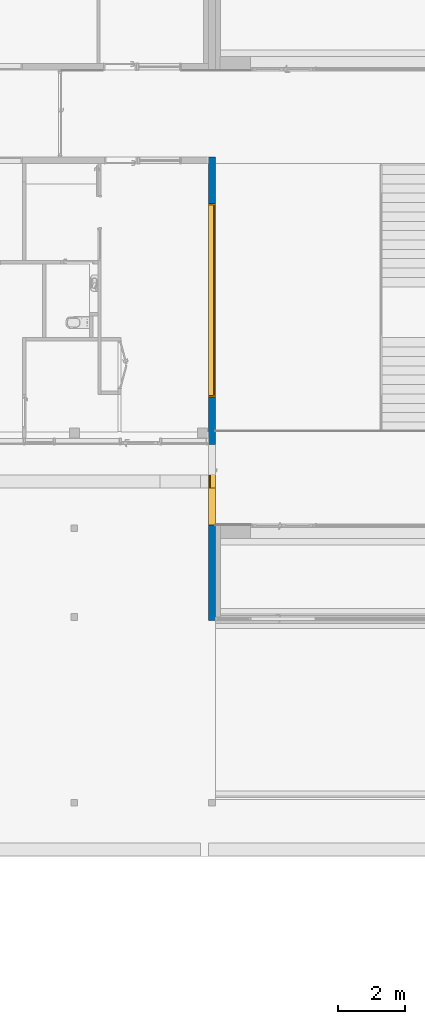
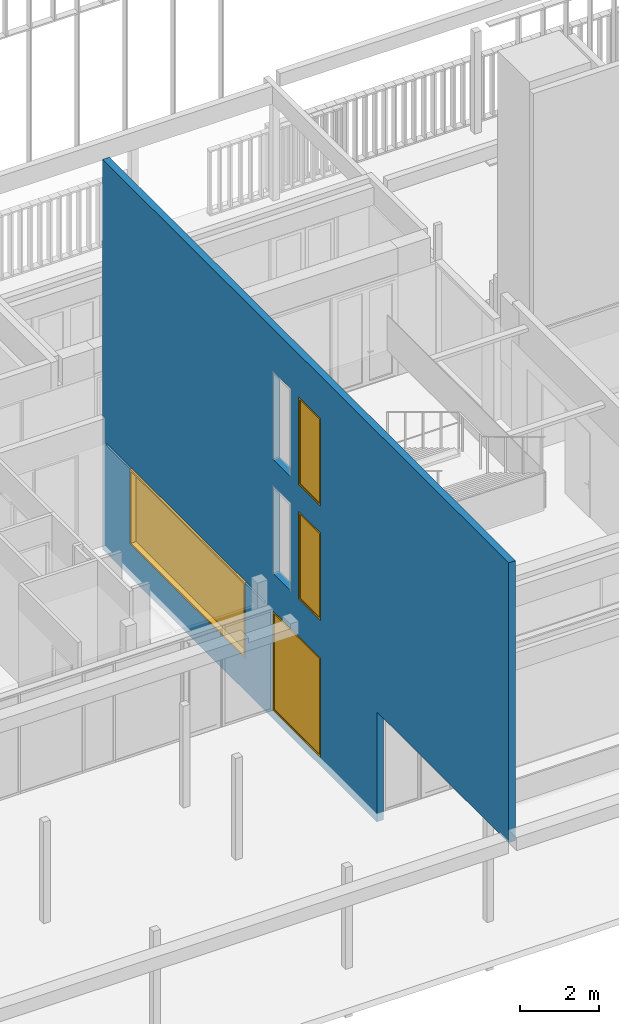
"""IFC2X3 building model written with IfcOpenShell, lengths in centimetres."""

from ifc_helpers import new_model, entity, si_unit, converted_unit, derived_unit, direction, frame, frame_2d, origin, place, context, subcontext, project, spatial, rectangle, extrude, faceted_brep, source, transform, mapped, material, material_list, layer, layer_set, type_object, type_shapes, element, fill, save


model = new_model("IFC2X3")

# Units and contexts
model_context = context("Model", 3, precision=0.001, world=origin(), true_north=direction((6.12303176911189e-17, 1.0)))
body_context = subcontext(model_context, "Body", "Model", "MODEL_VIEW")
ifc_project = project(units=[si_unit("LENGTHUNIT", "METRE", prefix="CENTI"), si_unit("AREAUNIT", "SQUARE_METRE"), si_unit("VOLUMEUNIT", "CUBIC_METRE"), converted_unit("PLANEANGLEUNIT", "DEGREE", entity("IfcRatioMeasure", 0.0174532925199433), si_unit("PLANEANGLEUNIT", "RADIAN"), dimensions=[0, 0, 0, 0, 0, 0, 0]), si_unit("MASSUNIT", "GRAM", prefix="KILO"), derived_unit("MASSDENSITYUNIT", [(si_unit("MASSUNIT", "GRAM", prefix="KILO"), 1), (si_unit("LENGTHUNIT", "METRE"), -3)]), si_unit("TIMEUNIT", "SECOND"), si_unit("FREQUENCYUNIT", "HERTZ"), si_unit("THERMODYNAMICTEMPERATUREUNIT", "DEGREE_CELSIUS"), derived_unit("THERMALTRANSMITTANCEUNIT", [(si_unit("MASSUNIT", "GRAM", prefix="KILO"), 1), (si_unit("THERMODYNAMICTEMPERATUREUNIT", "KELVIN"), -1), (si_unit("TIMEUNIT", "SECOND"), -3)]), derived_unit("VOLUMETRICFLOWRATEUNIT", [(si_unit("LENGTHUNIT", "METRE"), 3), (si_unit("TIMEUNIT", "SECOND"), -1)]), si_unit("ELECTRICCURRENTUNIT", "AMPERE"), si_unit("ELECTRICVOLTAGEUNIT", "VOLT"), si_unit("POWERUNIT", "WATT"), si_unit("FORCEUNIT", "NEWTON", prefix="KILO"), si_unit("ILLUMINANCEUNIT", "LUX"), si_unit("LUMINOUSFLUXUNIT", "LUMEN"), si_unit("LUMINOUSINTENSITYUNIT", "CANDELA"), derived_unit("USERDEFINED", [(si_unit("MASSUNIT", "GRAM", prefix="KILO"), -1), (si_unit("LENGTHUNIT", "METRE"), -2), (si_unit("TIMEUNIT", "SECOND"), 3), (si_unit("LUMINOUSFLUXUNIT", "LUMEN"), 1)]), derived_unit("LINEARVELOCITYUNIT", [(si_unit("LENGTHUNIT", "METRE"), 1), (si_unit("TIMEUNIT", "SECOND"), -1)]), si_unit("PRESSUREUNIT", "PASCAL"), derived_unit("USERDEFINED", [(si_unit("LENGTHUNIT", "METRE"), -2), (si_unit("MASSUNIT", "GRAM", prefix="KILO"), 1), (si_unit("TIMEUNIT", "SECOND"), -2)])], contexts=[model_context])

# Site, building, storey
site_placement = place(None, frame((-2781.94577612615, 7442.24238424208, 0.0)))
site = spatial("IfcSite", under=ifc_project, at=site_placement, Name="Default", CompositionType="ELEMENT")
building_placement = place(site_placement, origin())
building = spatial("IfcBuilding", under=site, at=building_placement, CompositionType="ELEMENT")
storey_1_placement = place(building_placement, origin())
storey_1 = spatial("IfcBuildingStorey", under=building, at=storey_1_placement, Name="N00 - COO", CompositionType="ELEMENT", Elevation=0.0)

# Wall, openings, window
ifc_material_1 = material(Name="01 - Maçonnerie")
ifc_layer = layer(ifc_material_1, 20.0)
ifc_layer_set = layer_set([ifc_layer], Name="Mur de base:04 - Structure - béton - 20cm")
wall_type = type_object("IfcWallType", Name="Mur de base:04 - Structure - béton - 20cm", PredefinedType="STANDARD", material=ifc_layer_set)
wall_placement = place(building_placement, frame((-4777.99987760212, -3140.31349958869, -26.0), z_axis=(0.0, 0.0, 1.0), x_axis=(0.0, 1.0, 0.0)))
wall = element("IfcWall", 1, at=wall_placement, inside=storey_1, type_object=wall_type, Name="Mur de base:04 - Structure - béton - 20cm", ObjectType="Mur de base:04 - Structure - béton - 20cm", context=body_context, shape_type="Brep", body=[
    faceted_brep([(1190.23446594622, -10.0, 332.0), (1190.23446594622, -10.0, 26.0), (950.156932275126, -10.0, 26.0), (950.156932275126, -10.0, 332.0), (1060.19064453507, -10.0, 1070.0), (1060.19064453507, -10.0, 800.0), (950.156932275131, -10.0, 800.0), (950.15693227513, -10.0, 1070.0), (950.15693227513, -10.0, 448.0), (950.15693227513, -10.0, 718.0), (1060.19064453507, -10.0, 718.0), (1060.19064453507, -10.0, 448.0), (1332.23446594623, -10.0, 101.0), (1332.23446594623, -10.0, 332.0), (1911.46036523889, -10.0, 332.0), (1911.46036523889, -10.0, 101.0), (1190.33446594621, -10.0, 1070.0), (1190.33446594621, -10.0, 800.0), (1100.33446594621, -10.0, 800.0), (1100.33446594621, -10.0, 1070.0), (1190.23446594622, -10.0, 718.0), (1190.23446594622, -10.0, 448.0), (1100.23446594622, -10.0, 448.0), (1100.23446594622, -10.0, 718.0), (665.156932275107, -10.0, 0.0), (684.156932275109, -10.0, 0.0), (2050.0, -10.0, 0.0), (2050.0, -10.0, 417.0), (2050.0, -10.0, 448.0), (2050.0, -10.0, 769.0), (2050.0, -10.0, 800.0), (2050.0, -10.0, 1197.0), (2050.0, -10.0, 1202.0), (1256.17297987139, -10.0, 1202.0), (146.0, -10.0, 1202.0), (130.0, -10.0, 1202.0), (110.0, -10.0, 1202.0), (90.0, -10.0, 1202.0), (0.0, -10.0, 1202.0), (0.0, -10.0, 339.0), (665.156932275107, -10.0, 339.0), (1190.23446594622, 10.0, 26.0), (1190.23446594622, 10.0, 332.0), (950.156932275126, 10.0, 332.0), (950.156932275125, 10.0, 26.0), (950.15693227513, 10.0, 718.0), (950.15693227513, 10.0, 448.0), (1060.19064453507, 10.0, 448.0), (1060.19064453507, 10.0, 718.0), (1060.19064453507, 10.0, 800.0), (1060.19064453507, 10.0, 1070.0), (950.156932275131, 10.0, 1070.0), (950.15693227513, 10.0, 800.0), (1332.23446594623, 10.0, 332.0), (1332.23446594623, 10.0, 101.0), (1911.46036523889, 10.0, 101.0), (1911.46036523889, 10.0, 332.0), (2030.31349968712, 10.0, 332.0), (2030.31349968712, 10.0, 339.0), (1235.23446594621, 10.0, 339.0), (1228.9244659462, 10.0, 339.0), (1228.9244659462, 10.0, 332.0), (1190.33446594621, 10.0, 800.0), (1190.33446594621, 10.0, 1070.0), (1100.33446594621, 10.0, 1070.0), (1100.33446594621, 10.0, 800.0), (1190.23446594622, 10.0, 448.0), (1190.23446594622, 10.0, 531.5), (1190.23446594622, 10.0, 718.0), (1100.23446594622, 10.0, 718.0), (1100.23446594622, 10.0, 448.0), (2050.0, 10.0, 0.0), (684.156932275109, 10.0, 0.0), (665.156932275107, 10.0, 0.0), (665.156932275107, 10.0, 339.0), (0.0, 10.0, 339.0), (0.0, 10.0, 1202.0), (1190.23446594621, 10.0, 1202.0), (1210.23446594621, 10.0, 1202.0), (1256.17297987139, 10.0, 1202.0), (2050.0, 10.0, 1202.0), (2050.0, 10.0, 1197.0), (2050.0, 10.0, 1172.0), (2050.0, 10.0, 1126.0), (1332.23446594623, -8.49999999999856, 332.0), (1911.46036523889, -8.49999999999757, 332.0), (2030.31349968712, -8.49999999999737, 339.0), (1228.9244659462, -8.49999999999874, 339.0), (2030.31349968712, -8.49999999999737, 332.0), (1228.9244659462, -8.49999999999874, 332.0)], [[[0, 1, 2, 3], [4, 5, 6, 7], [8, 9, 10, 11], [12, 13, 14, 15], [16, 17, 18, 19], [20, 21, 22, 23], [24, 25, 26, 27, 28, 29, 30, 31, 32, 33, 34, 35, 36, 37, 38, 39, 40]], [[41, 42, 43, 44], [45, 46, 47, 48], [49, 50, 51, 52], [53, 54, 55, 56, 57, 58, 59, 60, 61], [62, 63, 64, 65], [66, 67, 68, 69, 70], [71, 72, 73, 74, 75, 76, 77, 78, 79, 80, 81, 82, 83]], [[41, 1, 0, 42]], [[42, 0, 3, 43]], [[2, 44, 43, 3]], [[1, 41, 44, 2]], [[8, 46, 45, 9]], [[9, 45, 48, 10]], [[47, 11, 10, 48]], [[11, 47, 46, 8]], [[49, 5, 4, 50]], [[50, 4, 7, 51]], [[6, 52, 51, 7]], [[5, 49, 52, 6]], [[12, 54, 53, 84, 13]], [[14, 13, 84, 85]], [[55, 15, 14, 85, 56]], [[54, 12, 15, 55]], [[63, 62, 17, 16]], [[64, 63, 16, 19]], [[65, 64, 19, 18]], [[62, 65, 18, 17]], [[86, 87, 60, 59, 58]], [[85, 88, 57, 56]], [[87, 89, 61, 60]], [[87, 86, 88, 85, 84, 89]], [[88, 86, 58, 57]], [[68, 67, 66, 21, 20]], [[69, 68, 20, 23]], [[70, 69, 23, 22]], [[66, 70, 22, 21]], [[26, 25, 24, 73, 72, 71]], [[82, 81, 80, 32, 31, 30, 29, 28, 27, 26, 71, 83]], [[38, 37, 36, 35, 34, 33, 32, 80, 79, 78, 77, 76]], [[39, 38, 76, 75]], [[40, 39, 75, 74]], [[24, 40, 74, 73]], [[89, 84, 53, 61]]], outer=[[False, False, False, False, False, False, True], [False, False, False, False, False, False, True], [True], [True], [True], [True], [True], [True], [True], [True], [True], [True], [True], [True], [True], [True], [True], [True], [True], [True], [True], [True], [True], [True], [True], [True], [True], [True], [True], [True], [True], [True], [True], [True], [True], [True], [True], [True]]),
])
opening_1_placement = place(wall_placement, frame((1190.23446594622, 10.0, 26.0)))
opening_1 = element("IfcOpeningElement", 2, at=opening_1_placement, cuts=wall, Name="châssis intérieur vitré:RDC - Pignon -  châssis intérieur vitré (3.11m):1", ObjectType="Opening", context=body_context, shape_type="SweptSolid", body=[
    extrude(rectangle(XDim=306.0, YDim=240.077533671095, at=frame_2d((153.0, 120.038766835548), x_axis=(1.0, 0.0))), frame((0.0, 0.0, 0.0), z_axis=(0.0, -1.0, 0.0), x_axis=(0.0, 0.0, 1.0)), (0.0, 0.0, 1.0), 20.0),
])
opening_2_placement = place(wall_placement, frame((1060.19064453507, 10.0, 448.0)))
opening_2 = element("IfcOpeningElement", 3, at=opening_2_placement, cuts=wall, Name="châssis intérieur vitré:R+1 - Pignon -  châssis intérieur vitré (2,70m):1", ObjectType="Opening", context=body_context, shape_type="SweptSolid", body=[
    extrude(rectangle(XDim=270.0, YDim=110.033712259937, at=frame_2d((135.0, 55.0168561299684), x_axis=(1.0, 0.0))), frame((0.0, 0.0, 0.0), z_axis=(0.0, -1.0, 0.0), x_axis=(0.0, 0.0, 1.0)), (0.0, 0.0, 1.0), 20.0),
])
opening_3_placement = place(wall_placement, frame((1060.19064453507, 10.0, 800.0)))
opening_3 = element("IfcOpeningElement", 4, at=opening_3_placement, cuts=wall, Name="châssis intérieur vitré:R+1 - Pignon -  châssis intérieur vitré (2,70m):1", ObjectType="Opening", context=body_context, shape_type="SweptSolid", body=[
    extrude(rectangle(XDim=270.0, YDim=110.033712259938, at=frame_2d((135.0, 55.0168561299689), x_axis=(1.0, 0.0))), frame((0.0, 0.0, 0.0), z_axis=(0.0, -1.0, 0.0), x_axis=(0.0, 0.0, 1.0)), (0.0, 0.0, 1.0), 20.0),
])
opening_4_placement = place(wall_placement, frame((1332.23446594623, -10.0, 101.0)))
opening_4 = element("IfcOpeningElement", 5, at=opening_4_placement, cuts=wall, Name="châssis intérieur vitré:châssis intérieur vitré bureau asen:1", ObjectType="Opening", context=body_context, shape_type="SweptSolid", body=[
    extrude(rectangle(XDim=231.0, YDim=579.22589929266, at=frame_2d((115.5, 289.61294964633), x_axis=(1.0, 0.0))), frame((0.0, 0.0, 0.0), z_axis=(0.0, 1.0, 0.0), x_axis=(0.0, 0.0, 1.0)), (0.0, 0.0, 1.0), 20.0),
])
opening_5_placement = place(wall_placement, frame((1190.33446594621, 10.0, 800.0)))
element("IfcOpeningElement", 6, at=opening_5_placement, cuts=wall, Name="Int. Simple:PP simple accès technique coursive ext (0.93m x 2.50m) 2:1", ObjectType="Opening", context=body_context, shape_type="SweptSolid", body=[
    extrude(rectangle(XDim=270.000000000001, YDim=89.9999999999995, at=frame_2d((135.000000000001, 44.9999999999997), x_axis=(1.0, 0.0))), frame((0.0, 0.0, 0.0), z_axis=(0.0, -1.0, 0.0), x_axis=(0.0, 0.0, 1.0)), (0.0, 0.0, 1.0), 20.0),
])
opening_6_placement = place(wall_placement, frame((1190.23446594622, 10.0, 448.0)))
element("IfcOpeningElement", 7, at=opening_6_placement, cuts=wall, Name="Int. Simple:PP simple accès technique coursive ext (0.93m x 2.50m) 2:1", ObjectType="Opening", context=body_context, shape_type="SweptSolid", body=[
    extrude(rectangle(XDim=270.000000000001, YDim=89.9999999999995, at=frame_2d((135.000000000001, 44.9999999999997), x_axis=(1.0, 0.0))), frame((0.0, 0.0, 0.0), z_axis=(0.0, -1.0, 0.0), x_axis=(0.0, 0.0, 1.0)), (0.0, 0.0, 1.0), 20.0),
])
ifc_material_2 = material(Name="Verre")
ifc_material_3 = material(Name="huisserie bois")
ifc_material_list_1 = material_list([ifc_material_2, ifc_material_3])
ifc_material_list_2 = material_list([ifc_material_2, ifc_material_3])
window_style_1 = type_object("IfcWindowStyle", Name="RDC - Pignon -  châssis intérieur vitré (3.11m)", ConstructionType="NOTDEFINED", OperationType="NOTDEFINED", ParameterTakesPrecedence=False, Sizeable=False, material=ifc_material_list_2)
shared_shape_1 = source(origin(), body_context, "Body", "Brep", [
    faceted_brep([(237.077533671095, 5.0, 303.0), (237.077533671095, 5.0, 3.0), (3.0, 5.0, 3.0), (3.0, 5.0, 303.0), (237.077533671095, 2.0, 303.0), (237.077533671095, 2.0, 3.0), (3.0, 2.0, 3.0), (3.0, 2.0, 303.0)], [[[0, 1, 2, 3]], [[1, 0, 4, 5]], [[2, 1, 5, 6]], [[3, 2, 6, 7]], [[4, 7, 6, 5]], [[0, 3, 7, 4]]]),
    faceted_brep([(237.077533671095, 2.0, 303.0), (237.077533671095, 0.0, 303.0), (237.077533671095, 0.0, 3.0), (237.077533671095, 2.0, 3.0), (235.077533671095, 0.0, 5.0), (5.0, 0.0, 5.0), (5.0, 0.0, 301.0), (235.077533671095, 0.0, 301.0), (3.0, 0.0, 303.0), (3.0, 0.0, 3.0), (3.0, 2.0, 3.0), (3.0, 2.0, 303.0), (235.077533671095, 2.0, 301.0), (5.0, 2.0, 301.0), (5.0, 2.0, 5.0), (235.077533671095, 2.0, 5.0)], [[[0, 1, 2, 3]], [[4, 5, 6, 7], [1, 8, 9, 2]], [[3, 2, 9, 10]], [[3, 10, 11, 0], [12, 13, 14, 15]], [[7, 12, 15, 4]], [[4, 15, 14, 5]], [[10, 9, 8, 11]], [[5, 14, 13, 6]], [[11, 8, 1, 0]], [[6, 13, 12, 7]]], outer=[[True], [False, True], [True], [True, False], [True], [True], [True], [True], [True], [True]]),
    faceted_brep([(235.077533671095, 5.0, 301.0), (235.077533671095, 20.0, 301.0), (235.077533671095, 20.0, 5.0), (235.077533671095, 5.0, 5.0), (240.077533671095, 20.0, 0.0), (0.0, 20.0, 0.0), (0.0, 20.0, 306.0), (240.077533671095, 20.0, 306.0), (5.0, 20.0, 301.0), (5.0, 20.0, 5.0), (5.0, 5.0, 5.0), (5.0, 5.0, 301.0), (237.077533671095, 5.0, 303.0), (3.0, 5.0, 303.0), (3.0, 5.0, 3.0), (237.077533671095, 5.0, 3.0), (237.077533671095, 0.0, 303.0), (237.077533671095, 0.0, 3.0), (3.0, 0.0, 3.0), (3.0, 0.0, 303.0), (240.077533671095, 0.0, 306.0), (0.0, 0.0, 306.0), (0.0, 0.0, 0.0), (240.077533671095, 0.0, 0.0)], [[[0, 1, 2, 3]], [[4, 5, 6, 7], [1, 8, 9, 2]], [[3, 2, 9, 10]], [[3, 10, 11, 0], [12, 13, 14, 15]], [[16, 12, 15, 17]], [[17, 15, 14, 18]], [[17, 18, 19, 16], [20, 21, 22, 23]], [[7, 20, 23, 4]], [[4, 23, 22, 5]], [[10, 9, 8, 11]], [[18, 14, 13, 19]], [[5, 22, 21, 6]], [[11, 8, 1, 0]], [[19, 13, 12, 16]], [[6, 21, 20, 7]]], outer=[[True], [True, False], [True], [False, True], [True], [True], [False, True], [True], [True], [True], [True], [True], [True], [True], [True]]),
])
type_shapes(window_style_1, [shared_shape_1])
window_1_placement = place(opening_1_placement, frame((0.0, 0.0, 0.0), z_axis=(0.0, 0.0, 1.0), x_axis=(-1.0, 0.0, 0.0)))
window_1 = element("IfcWindow", 8, at=window_1_placement, inside=storey_1, type_object=window_style_1, material=ifc_material_list_1, Name="châssis intérieur vitré:RDC - Pignon -  châssis intérieur vitré (3.11m)", ObjectType="châssis intérieur vitré:RDC - Pignon -  châssis intérieur vitré (3.11m)", OverallHeight=306.0, OverallWidth=240.077533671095, context=body_context, shape_type="MappedRepresentation", body=[
    mapped(shared_shape_1, transform((0.0, 0.0, 0.0), scale=1.0)),
])
fill(opening_1, window_1)

# Storey
storey_2_placement = place(building_placement, frame((0.0, 0.0, 422.0)))
storey_2 = spatial("IfcBuildingStorey", under=building, at=storey_2_placement, Name="Toiture - Cuisine", CompositionType="ELEMENT", Elevation=421.999999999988)

# Window
ifc_material_list_3 = material_list([ifc_material_2, ifc_material_3])
ifc_material_list_4 = material_list([ifc_material_2, ifc_material_3])
window_style_2 = type_object("IfcWindowStyle", Name="R+1 - Pignon -  châssis intérieur vitré (2,70m)", ConstructionType="NOTDEFINED", OperationType="NOTDEFINED", ParameterTakesPrecedence=False, Sizeable=False, material=ifc_material_list_4)
shared_shape_2 = source(origin(), body_context, "Body", "Brep", [
    faceted_brep([(3.0, 5.0, 267.0), (107.033712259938, 5.0, 267.0), (107.033712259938, 5.0, 3.0), (3.0, 5.0, 3.0), (3.0, 2.0, 3.0), (3.0, 2.0, 267.0), (107.033712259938, 2.0, 3.0), (107.033712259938, 2.0, 267.0)], [[[0, 1, 2, 3]], [[3, 4, 5, 0]], [[2, 6, 4, 3]], [[1, 7, 6, 2]], [[5, 4, 6, 7]], [[0, 5, 7, 1]]]),
    faceted_brep([(3.0, 2.0, 267.0), (3.0, 2.0, 3.0), (3.0, 0.0, 3.0), (3.0, 0.0, 267.0), (107.033712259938, 0.0, 3.0), (107.033712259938, 0.0, 267.0), (5.0, 0.0, 5.0), (5.0, 0.0, 265.0), (105.033712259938, 0.0, 265.0), (105.033712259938, 0.0, 5.0), (107.033712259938, 2.0, 3.0), (107.033712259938, 2.0, 267.0), (5.0, 2.0, 265.0), (5.0, 2.0, 5.0), (105.033712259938, 2.0, 5.0), (105.033712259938, 2.0, 265.0)], [[[0, 1, 2, 3]], [[3, 2, 4, 5], [6, 7, 8, 9]], [[1, 10, 4, 2]], [[1, 0, 11, 10], [12, 13, 14, 15]], [[7, 6, 13, 12]], [[6, 9, 14, 13]], [[10, 11, 5, 4]], [[9, 8, 15, 14]], [[11, 0, 3, 5]], [[8, 7, 12, 15]]]),
    faceted_brep([(5.0, 5.0, 265.0), (5.0, 5.0, 5.0), (5.0, 20.0, 5.0), (5.0, 20.0, 265.0), (105.033712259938, 20.0, 5.0), (105.033712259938, 20.0, 265.0), (0.0, 20.0, 0.0), (0.0, 20.0, 270.0), (110.033712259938, 20.0, 270.0), (110.033712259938, 20.0, 0.0), (105.033712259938, 5.0, 5.0), (105.033712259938, 5.0, 265.0), (3.0, 5.0, 267.0), (3.0, 5.0, 3.0), (107.033712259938, 5.0, 3.0), (107.033712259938, 5.0, 267.0), (3.0, 0.0, 267.0), (3.0, 0.0, 3.0), (107.033712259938, 0.0, 3.0), (107.033712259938, 0.0, 267.0), (0.0, 0.0, 270.0), (0.0, 0.0, 0.0), (110.033712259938, 0.0, 0.0), (110.033712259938, 0.0, 270.0)], [[[0, 1, 2, 3]], [[3, 2, 4, 5], [6, 7, 8, 9]], [[1, 10, 4, 2]], [[1, 0, 11, 10], [12, 13, 14, 15]], [[16, 17, 13, 12]], [[17, 18, 14, 13]], [[17, 16, 19, 18], [20, 21, 22, 23]], [[7, 6, 21, 20]], [[6, 9, 22, 21]], [[10, 11, 5, 4]], [[18, 19, 15, 14]], [[9, 8, 23, 22]], [[11, 0, 3, 5]], [[19, 16, 12, 15]], [[8, 7, 20, 23]]], outer=[[True], [False, True], [True], [False, True], [True], [True], [False, True], [True], [True], [True], [True], [True], [True], [True], [True]]),
])
type_shapes(window_style_2, [shared_shape_2])
window_2_placement = place(opening_2_placement, frame((0.0, 0.0, 0.0), z_axis=(0.0, 0.0, 1.0), x_axis=(-1.0, 0.0, 0.0)))
window_2 = element("IfcWindow", 9, at=window_2_placement, inside=storey_2, type_object=window_style_2, material=ifc_material_list_3, Name="châssis intérieur vitré:R+1 - Pignon -  châssis intérieur vitré (2,70m)", ObjectType="châssis intérieur vitré:R+1 - Pignon -  châssis intérieur vitré (2,70m)", OverallHeight=270.0, OverallWidth=110.033712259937, context=body_context, shape_type="MappedRepresentation", body=[
    mapped(shared_shape_2, transform((0.0, 0.0, 0.0), scale=1.0)),
])

fill(opening_2, window_2)

# Storey
storey_3_placement = place(building_placement, frame((0.0, 0.0, 774.0)))
storey_3 = spatial("IfcBuildingStorey", under=building, at=storey_3_placement, Name="TR - N02 - ARCH", CompositionType="ELEMENT", Elevation=774.0)

# Window
ifc_material_list_5 = material_list([ifc_material_2, ifc_material_3])
ifc_material_list_6 = material_list([ifc_material_2, ifc_material_3])
window_style_3 = type_object("IfcWindowStyle", Name="R+1 - Pignon -  châssis intérieur vitré (2,70m)", ConstructionType="NOTDEFINED", OperationType="NOTDEFINED", ParameterTakesPrecedence=False, Sizeable=False, material=ifc_material_list_6)
shared_shape_3 = source(origin(), body_context, "Body", "Brep", [
    faceted_brep([(107.033712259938, 5.0, 267.0), (107.033712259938, 5.0, 3.0), (3.0, 5.0, 3.0), (3.0, 5.0, 267.0), (107.033712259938, 2.0, 267.0), (107.033712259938, 2.0, 3.0), (3.0, 2.0, 3.0), (3.0, 2.0, 267.0)], [[[0, 1, 2, 3]], [[1, 0, 4, 5]], [[2, 1, 5, 6]], [[3, 2, 6, 7]], [[4, 7, 6, 5]], [[0, 3, 7, 4]]]),
    faceted_brep([(107.033712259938, 2.0, 267.0), (107.033712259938, 0.0, 267.0), (107.033712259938, 0.0, 3.0), (107.033712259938, 2.0, 3.0), (105.033712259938, 0.0, 5.0), (5.0, 0.0, 5.0), (5.0, 0.0, 265.0), (105.033712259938, 0.0, 265.0), (3.0, 0.0, 267.0), (3.0, 0.0, 3.0), (3.0, 2.0, 3.0), (3.0, 2.0, 267.0), (105.033712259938, 2.0, 265.0), (5.0, 2.0, 265.0), (5.0, 2.0, 5.0), (105.033712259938, 2.0, 5.0)], [[[0, 1, 2, 3]], [[4, 5, 6, 7], [1, 8, 9, 2]], [[3, 2, 9, 10]], [[3, 10, 11, 0], [12, 13, 14, 15]], [[7, 12, 15, 4]], [[4, 15, 14, 5]], [[10, 9, 8, 11]], [[5, 14, 13, 6]], [[11, 8, 1, 0]], [[6, 13, 12, 7]]], outer=[[True], [False, True], [True], [True, False], [True], [True], [True], [True], [True], [True]]),
    faceted_brep([(105.033712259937, 5.0, 265.0), (105.033712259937, 20.0, 265.0), (105.033712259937, 20.0, 5.0), (105.033712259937, 5.0, 5.0), (110.033712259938, 20.0, 0.0), (0.0, 20.0, 0.0), (0.0, 20.0, 270.0), (110.033712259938, 20.0, 270.0), (5.0, 20.0, 265.0), (5.0, 20.0, 5.0), (5.0, 5.0, 5.0), (5.0, 5.0, 265.0), (107.033712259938, 5.0, 267.0), (3.0, 5.0, 267.0), (3.0, 5.0, 3.0), (107.033712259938, 5.0, 3.0), (107.033712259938, 0.0, 267.0), (107.033712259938, 0.0, 3.0), (3.0, 0.0, 3.0), (3.0, 0.0, 267.0), (110.033712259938, 0.0, 270.0), (0.0, 0.0, 270.0), (0.0, 0.0, 0.0), (110.033712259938, 0.0, 0.0)], [[[0, 1, 2, 3]], [[4, 5, 6, 7], [1, 8, 9, 2]], [[3, 2, 9, 10]], [[3, 10, 11, 0], [12, 13, 14, 15]], [[16, 12, 15, 17]], [[17, 15, 14, 18]], [[17, 18, 19, 16], [20, 21, 22, 23]], [[7, 20, 23, 4]], [[4, 23, 22, 5]], [[10, 9, 8, 11]], [[18, 14, 13, 19]], [[5, 22, 21, 6]], [[11, 8, 1, 0]], [[19, 13, 12, 16]], [[6, 21, 20, 7]]], outer=[[True], [True, False], [True], [False, True], [True], [True], [False, True], [True], [True], [True], [True], [True], [True], [True], [True]]),
])
type_shapes(window_style_3, [shared_shape_3])
window_3_placement = place(opening_3_placement, frame((0.0, 0.0, 0.0), z_axis=(0.0, 0.0, 1.0), x_axis=(-1.0, 0.0, 0.0)))
window_3 = element("IfcWindow", 10, at=window_3_placement, inside=storey_3, type_object=window_style_3, material=ifc_material_list_5, Name="châssis intérieur vitré:R+1 - Pignon -  châssis intérieur vitré (2,70m)", ObjectType="châssis intérieur vitré:R+1 - Pignon -  châssis intérieur vitré (2,70m)", OverallHeight=270.0, OverallWidth=110.033712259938, context=body_context, shape_type="MappedRepresentation", body=[
    mapped(shared_shape_3, transform((0.0, 0.0, 0.0), scale=1.0)),
])

fill(opening_3, window_3)

ifc_material_list_7 = material_list([ifc_material_2, ifc_material_3])
ifc_material_list_8 = material_list([ifc_material_2, ifc_material_3])
window_style_4 = type_object("IfcWindowStyle", Name="châssis intérieur vitré bureau asen", ConstructionType="NOTDEFINED", OperationType="NOTDEFINED", ParameterTakesPrecedence=False, Sizeable=False, material=ifc_material_list_8)
shared_shape_4 = source(origin(), body_context, "Body", "Brep", [
    faceted_brep([(576.22589929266, 5.0, 228.0), (576.22589929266, 5.0, 3.0), (3.0, 5.0, 3.0), (3.0, 5.0, 228.0), (576.22589929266, 2.0, 228.0), (576.22589929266, 2.0, 3.0), (3.0, 2.0, 3.0), (3.0, 2.0, 228.0)], [[[0, 1, 2, 3]], [[1, 0, 4, 5]], [[2, 1, 5, 6]], [[3, 2, 6, 7]], [[4, 7, 6, 5]], [[0, 3, 7, 4]]]),
    faceted_brep([(576.22589929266, 2.0, 228.0), (576.22589929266, 0.0, 228.0), (576.22589929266, 0.0, 3.0), (576.225899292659, 2.0, 3.0), (574.225899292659, 0.0, 5.0), (5.0, 0.0, 5.0), (5.0, 0.0, 226.0), (574.225899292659, 0.0, 226.0), (3.0, 0.0, 228.0), (3.0, 0.0, 3.0), (3.0, 2.0, 3.0), (3.0, 2.0, 228.0), (574.22589929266, 2.0, 226.0), (5.0, 2.0, 226.0), (5.0, 2.0, 5.0), (574.225899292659, 2.0, 5.0)], [[[0, 1, 2, 3]], [[4, 5, 6, 7], [1, 8, 9, 2]], [[3, 2, 9, 10]], [[3, 10, 11, 0], [12, 13, 14, 15]], [[7, 12, 15, 4]], [[4, 15, 14, 5]], [[10, 9, 8, 11]], [[5, 14, 13, 6]], [[11, 8, 1, 0]], [[6, 13, 12, 7]]], outer=[[True], [False, True], [True], [True, False], [True], [True], [True], [True], [True], [True]]),
    faceted_brep([(574.22589929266, 5.0, 226.0), (574.22589929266, 20.0, 226.0), (574.22589929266, 20.0, 5.0), (574.22589929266, 5.0, 5.0), (579.22589929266, 20.0, 0.0), (0.0, 20.0, 0.0), (0.0, 20.0, 231.0), (579.22589929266, 20.0, 231.0), (5.0, 20.0, 226.0), (5.0, 20.0, 5.0), (5.0, 5.0, 5.0), (5.0, 5.0, 226.0), (576.22589929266, 5.0, 228.0), (3.0, 5.0, 228.0), (3.0, 5.0, 3.0), (576.22589929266, 5.0, 3.0), (576.22589929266, 0.0, 228.0), (576.22589929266, 0.0, 3.0), (3.0, 0.0, 3.0), (3.0, 0.0, 228.0), (579.22589929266, 0.0, 231.0), (0.0, 0.0, 231.0), (0.0, 0.0, 0.0), (579.22589929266, 0.0, 0.0)], [[[0, 1, 2, 3]], [[4, 5, 6, 7], [1, 8, 9, 2]], [[3, 2, 9, 10]], [[3, 10, 11, 0], [12, 13, 14, 15]], [[16, 12, 15, 17]], [[17, 15, 14, 18]], [[17, 18, 19, 16], [20, 21, 22, 23]], [[7, 20, 23, 4]], [[4, 23, 22, 5]], [[10, 9, 8, 11]], [[18, 14, 13, 19]], [[5, 22, 21, 6]], [[11, 8, 1, 0]], [[19, 13, 12, 16]], [[6, 21, 20, 7]]], outer=[[True], [True, False], [True], [False, True], [True], [True], [False, True], [True], [True], [True], [True], [True], [True], [True], [True]]),
])
type_shapes(window_style_4, [shared_shape_4])
window_4_placement = place(opening_4_placement, origin())
window_4 = element("IfcWindow", 11, at=window_4_placement, inside=storey_1, type_object=window_style_4, material=ifc_material_list_7, Name="châssis intérieur vitré:châssis intérieur vitré bureau asen", ObjectType="châssis intérieur vitré:châssis intérieur vitré bureau asen", OverallHeight=231.0, OverallWidth=579.22589929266, context=body_context, shape_type="MappedRepresentation", body=[
    mapped(shared_shape_4, transform((0.0, 0.0, 0.0), scale=1.0)),
])

fill(opening_4, window_4)

save(model, "model.ifc")
